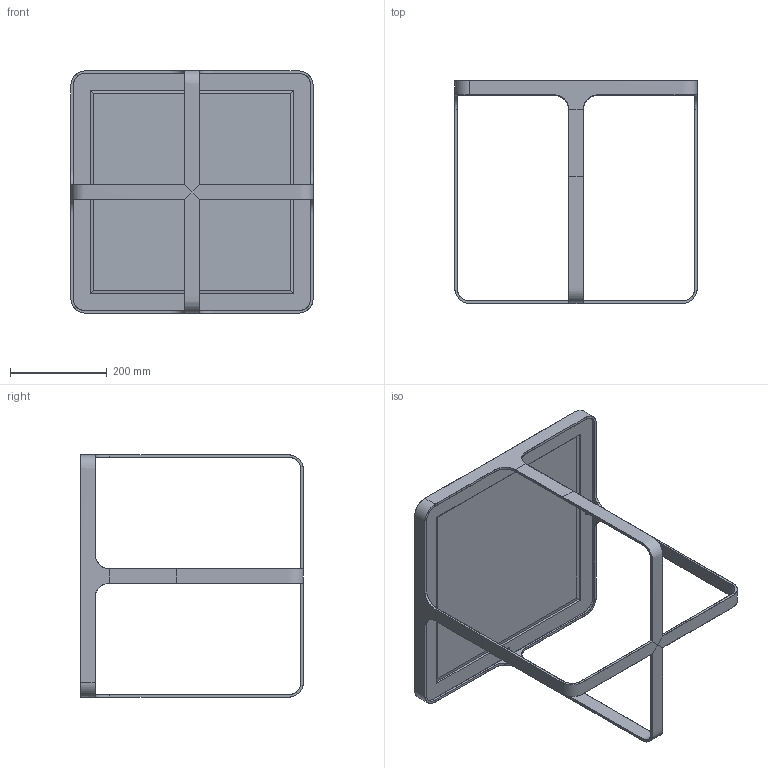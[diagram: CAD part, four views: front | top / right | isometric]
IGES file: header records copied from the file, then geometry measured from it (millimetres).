
Start section: SolidWorks IGES file using analytic representation for surfaces
Global section: file name: W:\design\GORDON GUILLAUMIER\CAGE\IGS\CAGE 50x50.IGS; native system: SolidWorks 2010; preprocessor: SolidWorks 2010; author: PC20; date: 150312.182022; units: millimetre
Bounding box: 500.13 x 460.06 x 500.13 mm (x, y, z)
Surface area: 947882.3 mm2 (no closed solid volume)
Topology: 0 solids, 0 shells, 71 faces, 3098 edges, 3474 vertices
Faces by surface type: bspline 59, revolution 12
